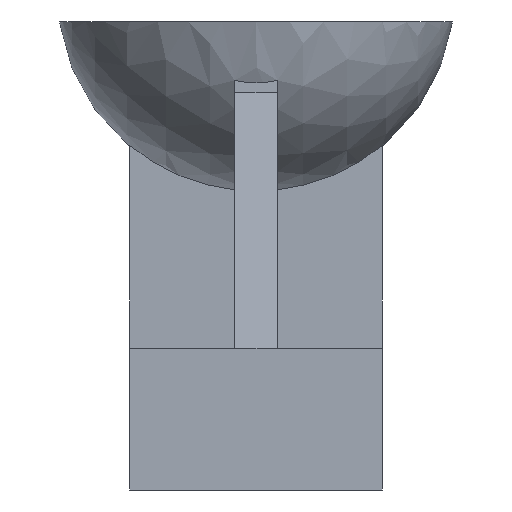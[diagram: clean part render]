
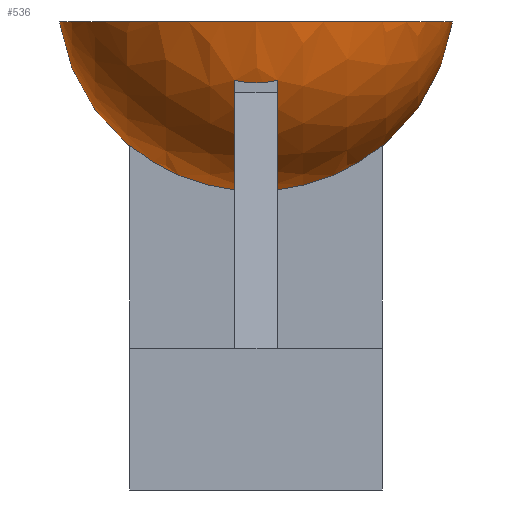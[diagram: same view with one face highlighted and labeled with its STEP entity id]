
A CAD part, left-side view. The second image highlights one B-rep face of the part: STEP entity #536.
In plain terms, the highlighted spherical face has radius 14 mm.
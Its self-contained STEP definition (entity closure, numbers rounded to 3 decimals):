
#11=CARTESIAN_POINT('',(0.,0.,33.));
#12=DIRECTION('',(0.,0.,1.));
#13=DIRECTION('',(1.,0.,0.));
#14=AXIS2_PLACEMENT_3D('',#11,#12,#13);
#16=CARTESIAN_POINT('',(0.,0.,33.));
#17=DIRECTION('',(0.,0.,1.));
#18=DIRECTION('',(0.,-1.,0.));
#19=AXIS2_PLACEMENT_3D('',#16,#17,#18);
#21=CARTESIAN_POINT('',(-12.5,0.,35.));
#22=DIRECTION('',(-1.,0.,0.));
#23=DIRECTION('',(0.,0.238,-0.971));
#24=AXIS2_PLACEMENT_3D('',#21,#22,#23);
#26=CARTESIAN_POINT('',(0.,1.5,35.));
#27=DIRECTION('',(0.,-1.,0.));
#28=DIRECTION('',(-0.898,0.,-0.44));
#29=AXIS2_PLACEMENT_3D('',#26,#27,#28);
#31=CARTESIAN_POINT('',(-1.5,0.,35.));
#32=DIRECTION('',(-1.,0.,0.));
#33=DIRECTION('',(0.,0.639,-0.769));
#34=AXIS2_PLACEMENT_3D('',#31,#32,#33);
#36=CARTESIAN_POINT('',(0.,8.9,35.));
#37=DIRECTION('',(0.,-1.,0.));
#38=DIRECTION('',(-0.139,0.,-0.99));
#39=AXIS2_PLACEMENT_3D('',#36,#37,#38);
#41=CARTESIAN_POINT('',(1.5,0.,35.));
#42=DIRECTION('',(1.,0.,0.));
#43=DIRECTION('',(0.,0.108,-0.994));
#44=AXIS2_PLACEMENT_3D('',#41,#42,#43);
#46=CARTESIAN_POINT('',(0.,1.5,35.));
#47=DIRECTION('',(0.,-1.,0.));
#48=DIRECTION('',(0.108,0.,-0.994));
#49=AXIS2_PLACEMENT_3D('',#46,#47,#48);
#51=CARTESIAN_POINT('',(12.5,0.,35.));
#52=DIRECTION('',(1.,0.,0.));
#53=DIRECTION('',(0.,-0.238,-0.971));
#54=AXIS2_PLACEMENT_3D('',#51,#52,#53);
#56=CARTESIAN_POINT('',(0.,-1.5,35.));
#57=DIRECTION('',(0.,-1.,0.));
#58=DIRECTION('',(0.108,0.,-0.994));
#59=AXIS2_PLACEMENT_3D('',#56,#57,#58);
#61=CARTESIAN_POINT('',(1.5,0.,35.));
#62=DIRECTION('',(1.,0.,0.));
#63=DIRECTION('',(0.,-0.639,-0.769));
#64=AXIS2_PLACEMENT_3D('',#61,#62,#63);
#66=CARTESIAN_POINT('',(0.,-8.9,35.));
#67=DIRECTION('',(0.,-1.,0.));
#68=DIRECTION('',(-0.139,0.,-0.99));
#69=AXIS2_PLACEMENT_3D('',#66,#67,#68);
#71=CARTESIAN_POINT('',(-1.5,0.,35.));
#72=DIRECTION('',(-1.,0.,0.));
#73=DIRECTION('',(0.,-0.108,-0.994));
#74=AXIS2_PLACEMENT_3D('',#71,#72,#73);
#76=CARTESIAN_POINT('',(0.,-1.5,35.));
#77=DIRECTION('',(0.,-1.,0.));
#78=DIRECTION('',(-0.898,0.,-0.44));
#79=AXIS2_PLACEMENT_3D('',#76,#77,#78);
#413=CARTESIAN_POINT('',(13.856,0.,33.));
#414=CARTESIAN_POINT('',(0.,-13.856,33.));
#415=VERTEX_POINT('',#413);
#416=VERTEX_POINT('',#414);
#417=CARTESIAN_POINT('',(-1.5,-8.9,24.298));
#418=CARTESIAN_POINT('',(1.5,-8.9,24.298));
#419=VERTEX_POINT('',#417);
#420=VERTEX_POINT('',#418);
#421=CARTESIAN_POINT('',(-1.5,8.9,24.298));
#422=CARTESIAN_POINT('',(1.5,8.9,24.298));
#423=VERTEX_POINT('',#421);
#424=VERTEX_POINT('',#422);
#433=CARTESIAN_POINT('',(-12.5,1.5,28.876));
#434=CARTESIAN_POINT('',(-12.5,-1.5,28.876));
#435=VERTEX_POINT('',#433);
#436=VERTEX_POINT('',#434);
#437=CARTESIAN_POINT('',(-1.5,-1.5,21.162));
#438=VERTEX_POINT('',#437);
#439=CARTESIAN_POINT('',(1.5,-1.5,21.162));
#440=CARTESIAN_POINT('',(12.5,-1.5,28.876));
#441=VERTEX_POINT('',#439);
#442=VERTEX_POINT('',#440);
#443=CARTESIAN_POINT('',(12.5,1.5,28.876));
#444=VERTEX_POINT('',#443);
#445=CARTESIAN_POINT('',(-1.5,1.5,21.162));
#446=VERTEX_POINT('',#445);
#447=CARTESIAN_POINT('',(1.5,1.5,21.162));
#448=VERTEX_POINT('',#447);
#501=CARTESIAN_POINT('',(0.,0.,35.));
#502=DIRECTION('',(0.,-1.,0.));
#503=DIRECTION('',(1.,0.,0.));
#504=AXIS2_PLACEMENT_3D('',#501,#502,#503);
#505=SPHERICAL_SURFACE('',#504,14.);
#506=ORIENTED_EDGE('',*,*,#490,.T.);
#507=ORIENTED_EDGE('',*,*,#492,.T.);
#508=EDGE_LOOP('',(#506,#507));
#509=FACE_OUTER_BOUND('',#508,.F.);
#511=ORIENTED_EDGE('',*,*,#510,.F.);
#513=ORIENTED_EDGE('',*,*,#512,.T.);
#515=ORIENTED_EDGE('',*,*,#514,.F.);
#517=ORIENTED_EDGE('',*,*,#516,.T.);
#519=ORIENTED_EDGE('',*,*,#518,.F.);
#521=ORIENTED_EDGE('',*,*,#520,.T.);
#523=ORIENTED_EDGE('',*,*,#522,.F.);
#525=ORIENTED_EDGE('',*,*,#524,.F.);
#527=ORIENTED_EDGE('',*,*,#526,.F.);
#529=ORIENTED_EDGE('',*,*,#528,.F.);
#531=ORIENTED_EDGE('',*,*,#530,.F.);
#533=ORIENTED_EDGE('',*,*,#532,.F.);
#534=EDGE_LOOP('',(#511,#513,#515,#517,#519,#521,#523,#525,#527,#529,#531,
#533));
#535=FACE_BOUND('',#534,.F.);
#536=ADVANCED_FACE('',(#509,#535),#505,.T.);
#15=CIRCLE('',#14,13.856);
#20=CIRCLE('',#19,13.856);
#25=CIRCLE('',#24,6.305);
#30=CIRCLE('',#29,13.919);
#35=CIRCLE('',#34,13.919);
#40=CIRCLE('',#39,10.807);
#45=CIRCLE('',#44,13.919);
#50=CIRCLE('',#49,13.919);
#55=CIRCLE('',#54,6.305);
#60=CIRCLE('',#59,13.919);
#65=CIRCLE('',#64,13.919);
#70=CIRCLE('',#69,10.807);
#75=CIRCLE('',#74,13.919);
#80=CIRCLE('',#79,13.919);
#490=EDGE_CURVE('',#415,#416,#15,.T.);
#492=EDGE_CURVE('',#416,#415,#20,.T.);
#510=EDGE_CURVE('',#435,#436,#25,.T.);
#512=EDGE_CURVE('',#435,#446,#30,.T.);
#514=EDGE_CURVE('',#423,#446,#35,.T.);
#516=EDGE_CURVE('',#423,#424,#40,.T.);
#518=EDGE_CURVE('',#448,#424,#45,.T.);
#520=EDGE_CURVE('',#448,#444,#50,.T.);
#522=EDGE_CURVE('',#442,#444,#55,.T.);
#524=EDGE_CURVE('',#441,#442,#60,.T.);
#526=EDGE_CURVE('',#420,#441,#65,.T.);
#528=EDGE_CURVE('',#419,#420,#70,.T.);
#530=EDGE_CURVE('',#438,#419,#75,.T.);
#532=EDGE_CURVE('',#436,#438,#80,.T.);
